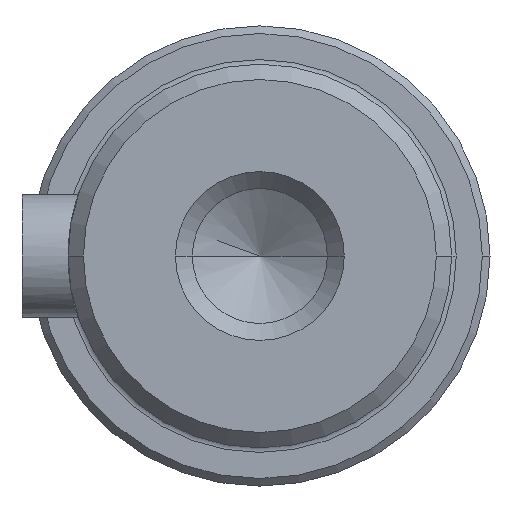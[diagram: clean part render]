
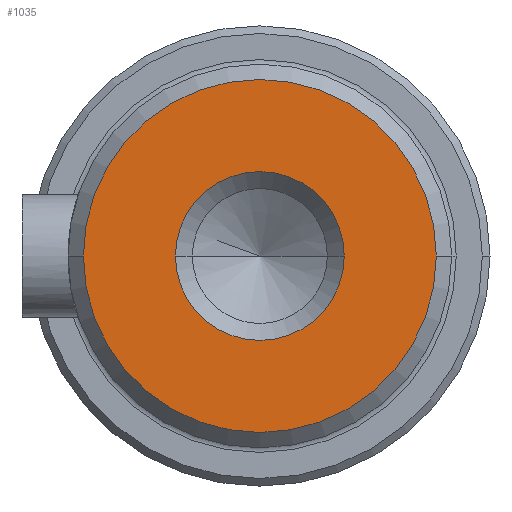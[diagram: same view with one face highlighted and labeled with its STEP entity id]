
A CAD part, left-side view. The second image highlights one B-rep face of the part: STEP entity #1035.
In plain terms, the highlighted planar face has unit normal (-1, 0, 0).
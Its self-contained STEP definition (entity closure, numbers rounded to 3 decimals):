
#99=CARTESIAN_POINT('',(0.,0.,0.));
#100=DIRECTION('',(-1.,0.,0.));
#101=DIRECTION('',(0.,1.,0.));
#102=AXIS2_PLACEMENT_3D('',#99,#100,#101);
#104=CARTESIAN_POINT('',(0.,0.,0.));
#105=DIRECTION('',(-1.,0.,0.));
#106=DIRECTION('',(0.,-1.,0.));
#107=AXIS2_PLACEMENT_3D('',#104,#105,#106);
#109=CARTESIAN_POINT('',(0.,0.,0.));
#110=DIRECTION('',(-1.,0.,0.));
#111=DIRECTION('',(0.,1.,0.));
#112=AXIS2_PLACEMENT_3D('',#109,#110,#111);
#114=CARTESIAN_POINT('',(0.,0.,0.));
#115=DIRECTION('',(-1.,0.,0.));
#116=DIRECTION('',(0.,-1.,0.));
#117=AXIS2_PLACEMENT_3D('',#114,#115,#116);
#811=CARTESIAN_POINT('',(0.,5.5,0.));
#812=CARTESIAN_POINT('',(0.,-5.5,0.));
#813=VERTEX_POINT('',#811);
#814=VERTEX_POINT('',#812);
#843=CARTESIAN_POINT('',(0.,11.5,0.));
#844=CARTESIAN_POINT('',(0.,-11.5,0.));
#845=VERTEX_POINT('',#843);
#846=VERTEX_POINT('',#844);
#1019=CARTESIAN_POINT('',(0.,0.,0.));
#1020=DIRECTION('',(1.,0.,0.));
#1021=DIRECTION('',(0.,-1.,0.));
#1022=AXIS2_PLACEMENT_3D('',#1019,#1020,#1021);
#1023=PLANE('',#1022);
#1024=ORIENTED_EDGE('',*,*,#1009,.F.);
#1026=ORIENTED_EDGE('',*,*,#1025,.F.);
#1027=EDGE_LOOP('',(#1024,#1026));
#1028=FACE_OUTER_BOUND('',#1027,.F.);
#1030=ORIENTED_EDGE('',*,*,#1029,.T.);
#1032=ORIENTED_EDGE('',*,*,#1031,.T.);
#1033=EDGE_LOOP('',(#1030,#1032));
#1034=FACE_BOUND('',#1033,.F.);
#1035=ADVANCED_FACE('',(#1028,#1034),#1023,.F.);
#103=CIRCLE('',#102,11.5);
#108=CIRCLE('',#107,11.5);
#113=CIRCLE('',#112,5.5);
#118=CIRCLE('',#117,5.5);
#1009=EDGE_CURVE('',#845,#846,#103,.T.);
#1025=EDGE_CURVE('',#846,#845,#108,.T.);
#1029=EDGE_CURVE('',#813,#814,#113,.T.);
#1031=EDGE_CURVE('',#814,#813,#118,.T.);
